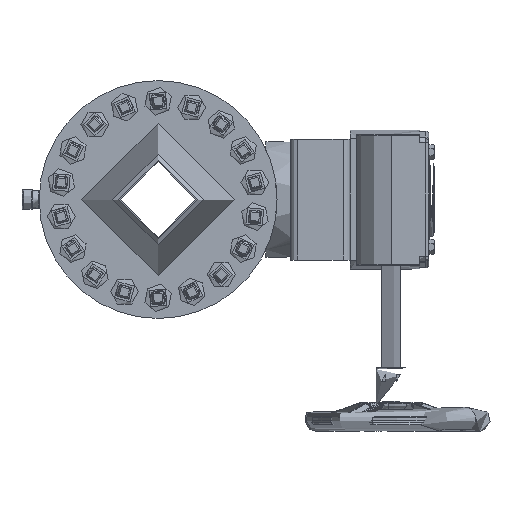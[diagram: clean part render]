
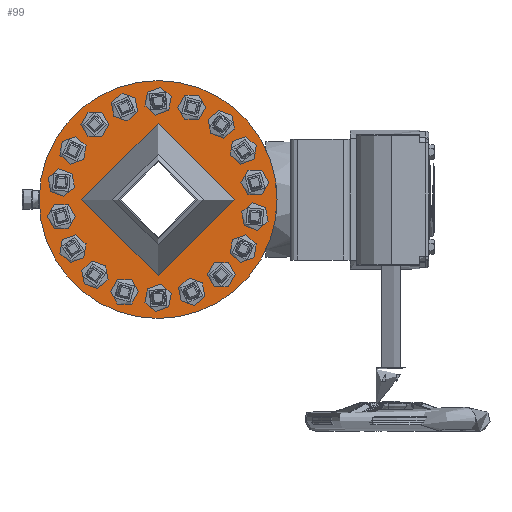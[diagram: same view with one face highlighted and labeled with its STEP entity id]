
A CAD part, left-side view. The second image highlights one B-rep face of the part: STEP entity #99.
In plain terms, the highlighted planar face has unit normal (-1, 0, 0).
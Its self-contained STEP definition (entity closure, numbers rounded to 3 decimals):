
#99=ADVANCED_FACE('',(#2939,#2941,#2943,#2945,#2947,#2949,#2951,#2953,#2955,#2957,
#2959,#2961,#2963,#2965,#2967,#2969,#2971,#2973,#2975,#2977),#2979,.T.);
#2939=FACE_BOUND('',#2940,.T.);
#2940=EDGE_LOOP('',(#58746));
#2941=FACE_BOUND('',#2942,.T.);
#2942=EDGE_LOOP('',(#58747));
#2943=FACE_BOUND('',#2944,.T.);
#2944=EDGE_LOOP('',(#58748));
#2945=FACE_BOUND('',#2946,.T.);
#2946=EDGE_LOOP('',(#58749));
#2947=FACE_BOUND('',#2948,.T.);
#2948=EDGE_LOOP('',(#58750));
#2949=FACE_BOUND('',#2950,.T.);
#2950=EDGE_LOOP('',(#58751));
#2951=FACE_BOUND('',#2952,.T.);
#2952=EDGE_LOOP('',(#58752));
#2953=FACE_BOUND('',#2954,.T.);
#2954=EDGE_LOOP('',(#58753));
#2955=FACE_BOUND('',#2956,.T.);
#2956=EDGE_LOOP('',(#58754));
#2957=FACE_BOUND('',#2958,.T.);
#2958=EDGE_LOOP('',(#58755));
#2959=FACE_BOUND('',#2960,.T.);
#2960=EDGE_LOOP('',(#58756));
#2961=FACE_BOUND('',#2962,.T.);
#2962=EDGE_LOOP('',(#58757));
#2963=FACE_BOUND('',#2964,.T.);
#2964=EDGE_LOOP('',(#58758));
#2965=FACE_BOUND('',#2966,.T.);
#2966=EDGE_LOOP('',(#58759));
#2967=FACE_BOUND('',#2968,.T.);
#2968=EDGE_LOOP('',(#58760));
#2969=FACE_BOUND('',#2970,.T.);
#2970=EDGE_LOOP('',(#58761));
#2971=FACE_BOUND('',#2972,.T.);
#2972=EDGE_LOOP('',(#58762));
#2973=FACE_BOUND('',#2974,.T.);
#2974=EDGE_LOOP('',(#58763));
#2975=FACE_BOUND('',#2976,.T.);
#2976=EDGE_LOOP('',(#58764));
#2977=FACE_OUTER_BOUND('',#2978,.T.);
#2978=EDGE_LOOP('',(#58765));
#2979=PLANE('',#2980);
#2980=AXIS2_PLACEMENT_3D('',#2981,#2982,#2983);
#2981=CARTESIAN_POINT('',(-92.,0.,0.));
#2982=DIRECTION('',(-1.,0.,0.));
#2983=DIRECTION('',(0.,-1.,0.));
#58746=ORIENTED_EDGE('',*,*,#72738,.T.);
#58747=ORIENTED_EDGE('',*,*,#72739,.T.);
#58748=ORIENTED_EDGE('',*,*,#72740,.T.);
#58749=ORIENTED_EDGE('',*,*,#72741,.F.);
#58750=ORIENTED_EDGE('',*,*,#72742,.F.);
#58751=ORIENTED_EDGE('',*,*,#72743,.F.);
#58752=ORIENTED_EDGE('',*,*,#72744,.F.);
#58753=ORIENTED_EDGE('',*,*,#72745,.F.);
#58754=ORIENTED_EDGE('',*,*,#72746,.F.);
#58755=ORIENTED_EDGE('',*,*,#72747,.T.);
#58756=ORIENTED_EDGE('',*,*,#72748,.F.);
#58757=ORIENTED_EDGE('',*,*,#72749,.F.);
#58758=ORIENTED_EDGE('',*,*,#72750,.F.);
#58759=ORIENTED_EDGE('',*,*,#72751,.F.);
#58760=ORIENTED_EDGE('',*,*,#72752,.F.);
#58761=ORIENTED_EDGE('',*,*,#72753,.F.);
#58762=ORIENTED_EDGE('',*,*,#72754,.T.);
#58763=ORIENTED_EDGE('',*,*,#72755,.T.);
#58764=ORIENTED_EDGE('',*,*,#72726,.T.);
#58765=ORIENTED_EDGE('',*,*,#72756,.F.);
#72726=EDGE_CURVE('',#79704,#79704,#79705,.F.);
#72738=EDGE_CURVE('',#79726,#79726,#79727,.F.);
#72739=EDGE_CURVE('',#79728,#79728,#79729,.F.);
#72740=EDGE_CURVE('',#79730,#79730,#79731,.F.);
#72741=EDGE_CURVE('',#79732,#79732,#79733,.T.);
#72742=EDGE_CURVE('',#79734,#79734,#79735,.T.);
#72743=EDGE_CURVE('',#79736,#79736,#79737,.T.);
#72744=EDGE_CURVE('',#79738,#79738,#79739,.T.);
#72745=EDGE_CURVE('',#79740,#79740,#79741,.T.);
#72746=EDGE_CURVE('',#79742,#79742,#79743,.T.);
#72747=EDGE_CURVE('',#79744,#79744,#79745,.T.);
#72748=EDGE_CURVE('',#79746,#79746,#79747,.T.);
#72749=EDGE_CURVE('',#79748,#79748,#79749,.T.);
#72750=EDGE_CURVE('',#79750,#79750,#79751,.T.);
#72751=EDGE_CURVE('',#79752,#79752,#79753,.T.);
#72752=EDGE_CURVE('',#79754,#79754,#79755,.T.);
#72753=EDGE_CURVE('',#79756,#79756,#79757,.T.);
#72754=EDGE_CURVE('',#79758,#79758,#79759,.F.);
#72755=EDGE_CURVE('',#79760,#79760,#79761,.F.);
#72756=EDGE_CURVE('',#79762,#79762,#79763,.T.);
#79704=VERTEX_POINT('',#90770);
#79705=CIRCLE('',#90771,11.4);
#79726=VERTEX_POINT('',#91066);
#79727=CIRCLE('',#91067,11.4);
#79728=VERTEX_POINT('',#91071);
#79729=CIRCLE('',#91072,11.4);
#79730=VERTEX_POINT('',#91076);
#79731=CIRCLE('',#91077,11.4);
#79732=VERTEX_POINT('',#91081);
#79733=CIRCLE('',#91082,11.4);
#79734=VERTEX_POINT('',#91086);
#79735=CIRCLE('',#91087,11.4);
#79736=VERTEX_POINT('',#91091);
#79737=CIRCLE('',#91092,11.4);
#79738=VERTEX_POINT('',#91096);
#79739=CIRCLE('',#91097,11.4);
#79740=VERTEX_POINT('',#91101);
#79741=CIRCLE('',#91102,11.4);
#79742=VERTEX_POINT('',#91106);
#79743=CIRCLE('',#91107,11.4);
#79744=VERTEX_POINT('',#91111);
#79745=CIRCLE('',#91112,75.75);
#79746=VERTEX_POINT('',#91116);
#79747=CIRCLE('',#91117,11.4);
#79748=VERTEX_POINT('',#91121);
#79749=CIRCLE('',#91122,11.4);
#79750=VERTEX_POINT('',#91126);
#79751=CIRCLE('',#91127,11.4);
#79752=VERTEX_POINT('',#91131);
#79753=CIRCLE('',#91132,11.4);
#79754=VERTEX_POINT('',#91136);
#79755=CIRCLE('',#91137,11.4);
#79756=VERTEX_POINT('',#91141);
#79757=CIRCLE('',#91142,11.4);
#79758=VERTEX_POINT('',#91146);
#79759=CIRCLE('',#91147,11.4);
#79760=VERTEX_POINT('',#91151);
#79761=CIRCLE('',#91152,11.4);
#79762=VERTEX_POINT('',#91156);
#79763=CIRCLE('',#91157,118.);
#90770=CARTESIAN_POINT('',(-92.,82.458,-37.523));
#90771=AXIS2_PLACEMENT_3D('',#90772,#90773,#90774);
#90772=CARTESIAN_POINT('',(-92.,84.437,-48.75));
#90773=DIRECTION('',(-1.,0.,0.));
#90774=DIRECTION('',(0.,-0.174,0.985));
#91066=CARTESIAN_POINT('',(-92.,64.651,-63.463));
#91067=AXIS2_PLACEMENT_3D('',#91068,#91069,#91070);
#91068=CARTESIAN_POINT('',(-92.,62.672,-74.689));
#91069=DIRECTION('',(-1.,0.,0.));
#91070=DIRECTION('',(0.,0.174,0.985));
#91071=CARTESIAN_POINT('',(-92.,8.733,-90.172));
#91072=AXIS2_PLACEMENT_3D('',#91073,#91074,#91075);
#91073=CARTESIAN_POINT('',(-92.,0.,-97.5));
#91074=DIRECTION('',(-1.,0.,0.));
#91075=DIRECTION('',(0.,0.766,0.643));
#91076=CARTESIAN_POINT('',(-92.,-51.272,-74.689));
#91077=AXIS2_PLACEMENT_3D('',#91078,#91079,#91080);
#91078=CARTESIAN_POINT('',(-92.,-62.672,-74.689));
#91079=DIRECTION('',(-1.,0.,0.));
#91080=DIRECTION('',(0.,1.,0.));
#91081=CARTESIAN_POINT('',(-92.,-87.286,-24.258));
#91082=AXIS2_PLACEMENT_3D('',#91083,#91084,#91085);
#91083=CARTESIAN_POINT('',(-92.,-96.019,-16.931));
#91084=DIRECTION('',(-1.,0.,0.));
#91085=DIRECTION('',(0.,0.766,-0.643));
#91086=CARTESIAN_POINT('',(-92.,90.319,-7.058));
#91087=AXIS2_PLACEMENT_3D('',#91088,#91089,#91090);
#91088=CARTESIAN_POINT('',(-92.,96.019,-16.931));
#91089=DIRECTION('',(-1.,0.,0.));
#91090=DIRECTION('',(0.,-0.5,0.866));
#91091=CARTESIAN_POINT('',(-92.,73.725,52.649));
#91092=AXIS2_PLACEMENT_3D('',#91093,#91094,#91095);
#91093=CARTESIAN_POINT('',(-92.,84.437,48.75));
#91094=DIRECTION('',(-1.,0.,0.));
#91095=DIRECTION('',(0.,-0.94,0.342));
#91096=CARTESIAN_POINT('',(-92.,22.634,87.721));
#91097=AXIS2_PLACEMENT_3D('',#91098,#91099,#91100);
#91098=CARTESIAN_POINT('',(-92.,33.347,91.62));
#91099=DIRECTION('',(-1.,0.,0.));
#91100=DIRECTION('',(0.,-0.94,-0.342));
#91101=CARTESIAN_POINT('',(-92.,-82.458,37.523));
#91102=AXIS2_PLACEMENT_3D('',#91103,#91104,#91105);
#91103=CARTESIAN_POINT('',(-92.,-84.437,48.75));
#91104=DIRECTION('',(-1.,0.,0.));
#91105=DIRECTION('',(0.,0.174,-0.985));
#91106=CARTESIAN_POINT('',(-92.,-39.047,81.747));
#91107=AXIS2_PLACEMENT_3D('',#91108,#91109,#91110);
#91108=CARTESIAN_POINT('',(-92.,-33.347,91.62));
#91109=DIRECTION('',(-1.,0.,0.));
#91110=DIRECTION('',(0.,-0.5,-0.866));
#91111=CARTESIAN_POINT('',(-92.,-75.75,0.));
#91112=AXIS2_PLACEMENT_3D('',#91113,#91114,#91115);
#91113=CARTESIAN_POINT('',(-92.,0.,0.));
#91114=DIRECTION('',(1.,0.,0.));
#91115=DIRECTION('',(0.,-1.,0.));
#91116=CARTESIAN_POINT('',(-92.,-64.651,63.463));
#91117=AXIS2_PLACEMENT_3D('',#91118,#91119,#91120);
#91118=CARTESIAN_POINT('',(-92.,-62.672,74.689));
#91119=DIRECTION('',(-1.,0.,0.));
#91120=DIRECTION('',(0.,-0.174,-0.985));
#91121=CARTESIAN_POINT('',(-92.,-8.733,90.172));
#91122=AXIS2_PLACEMENT_3D('',#91123,#91124,#91125);
#91123=CARTESIAN_POINT('',(-92.,0.,97.5));
#91124=DIRECTION('',(-1.,0.,0.));
#91125=DIRECTION('',(0.,-0.766,-0.643));
#91126=CARTESIAN_POINT('',(-92.,51.272,74.689));
#91127=AXIS2_PLACEMENT_3D('',#91128,#91129,#91130);
#91128=CARTESIAN_POINT('',(-92.,62.672,74.689));
#91129=DIRECTION('',(-1.,0.,0.));
#91130=DIRECTION('',(0.,-1.,0.));
#91131=CARTESIAN_POINT('',(-92.,87.286,24.258));
#91132=AXIS2_PLACEMENT_3D('',#91133,#91134,#91135);
#91133=CARTESIAN_POINT('',(-92.,96.019,16.931));
#91134=DIRECTION('',(-1.,0.,0.));
#91135=DIRECTION('',(0.,-0.766,0.643));
#91136=CARTESIAN_POINT('',(-92.,-90.319,7.058));
#91137=AXIS2_PLACEMENT_3D('',#91138,#91139,#91140);
#91138=CARTESIAN_POINT('',(-92.,-96.019,16.931));
#91139=DIRECTION('',(-1.,0.,0.));
#91140=DIRECTION('',(0.,0.5,-0.866));
#91141=CARTESIAN_POINT('',(-92.,-73.725,-52.649));
#91142=AXIS2_PLACEMENT_3D('',#91143,#91144,#91145);
#91143=CARTESIAN_POINT('',(-92.,-84.437,-48.75));
#91144=DIRECTION('',(-1.,0.,0.));
#91145=DIRECTION('',(0.,0.94,-0.342));
#91146=CARTESIAN_POINT('',(-92.,-22.634,-87.721));
#91147=AXIS2_PLACEMENT_3D('',#91148,#91149,#91150);
#91148=CARTESIAN_POINT('',(-92.,-33.347,-91.62));
#91149=DIRECTION('',(-1.,0.,0.));
#91150=DIRECTION('',(0.,0.94,0.342));
#91151=CARTESIAN_POINT('',(-92.,39.047,-81.747));
#91152=AXIS2_PLACEMENT_3D('',#91153,#91154,#91155);
#91153=CARTESIAN_POINT('',(-92.,33.347,-91.62));
#91154=DIRECTION('',(-1.,0.,0.));
#91155=DIRECTION('',(0.,0.5,0.866));
#91156=CARTESIAN_POINT('',(-92.,-118.,0.));
#91157=AXIS2_PLACEMENT_3D('',#91158,#91159,#91160);
#91158=CARTESIAN_POINT('',(-92.,0.,0.));
#91159=DIRECTION('',(1.,0.,0.));
#91160=DIRECTION('',(0.,-1.,0.));
